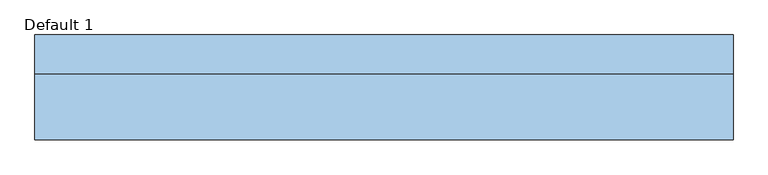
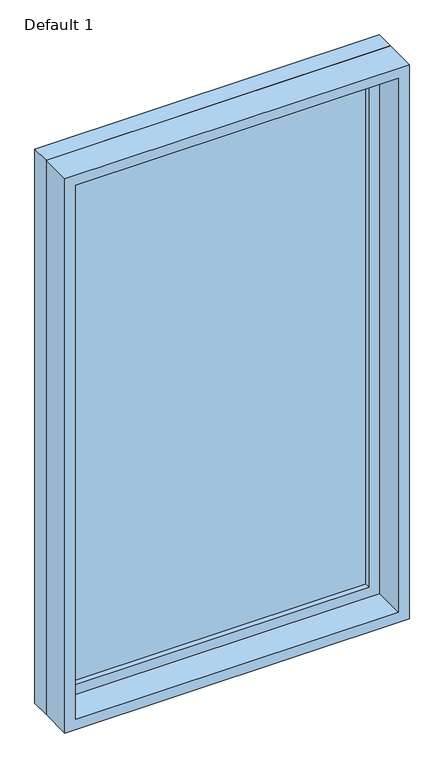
"""IFC4 building model written with IfcOpenShell, lengths in millimetres: window geometry, Planitar-Fixed : Default 1."""

from ifc_helpers import new_model, si_unit, frame, origin, place, context, project, spatial, polyline, outline, extrude, source, transform, mapped, element, save


def default_1_ade855ad(model_context):
    return source(origin(), model_context, "Body", "SweptSolid", [
        extrude(outline(polyline([(2622.6, -489.0), (933.4, -489.0), (933.4, 489.0), (2622.6, 489.0), (2622.6, -489.0)]), holes=[polyline([(2578.6, -445.0), (2578.6, 445.0), (977.4, 445.0), (977.4, -445.0), (2578.6, -445.0)])]), frame((0.0, 32.5, 0.0), z_axis=(0.0, 1.0, 0.0), x_axis=(0.0, 0.0, 1.0)), (0.0, 0.0, 1.0), 44.0),
        extrude(outline(polyline([(2641.6, -508.0), (914.4, -508.0), (914.4, 508.0), (2641.6, 508.0), (2641.6, -508.0)]), holes=[polyline([(2622.6, -489.0), (2622.6, 489.0), (933.4, 489.0), (933.4, -489.0), (2622.6, -489.0)])]), frame((0.0, 32.5, 0.0), z_axis=(0.0, 1.0, 0.0), x_axis=(0.0, 0.0, 1.0)), (0.0, 0.0, 1.0), 56.7),
        extrude(outline(polyline([(2641.6, -508.0), (914.4, -508.0), (914.4, 508.0), (2641.6, 508.0), (2641.6, -508.0)]), holes=[polyline([(2609.6, -476.0), (2609.6, 476.0), (946.4, 476.0), (946.4, -476.0), (2609.6, -476.0)])]), frame((0.0, -63.2, 0.0), z_axis=(0.0, 1.0, 0.0), x_axis=(0.0, 0.0, 1.0)), (0.0, 0.0, 1.0), 95.7),
        extrude(outline(polyline([(-445.0, 60.5), (445.0, 60.5), (445.0, 48.5), (-445.0, 48.5), (-445.0, 60.5)])), frame((0.0, 0.0, 977.4), z_axis=(0.0, 0.0, 1.0), x_axis=(1.0, 0.0, 0.0)), (0.0, 0.0, 1.0), 1601.2),
    ])


if __name__ == "__main__":
    model = new_model("IFC4")
    model_context = context("Model", 3, world=origin())
    ifc_project = project(units=[si_unit("LENGTHUNIT", "METRE", prefix="MILLI")], contexts=[model_context])
    site = spatial("IfcSite", under=ifc_project)
    building = spatial("IfcBuilding", under=site)
    placement = place(None, origin())
    default_1_shape = default_1_ade855ad(model_context)
    element("IfcWindow", 1, ObjectType="Planitar-Fixed : Default 1", at=placement, inside=building, context=model_context, shape_type="MappedRepresentation", body=[
        mapped(default_1_shape, transform((0.0, 0.0, 0.0), x_axis=(1.0, 0.0, 0.0), y_axis=(0.0, 1.0, 0.0), z_axis=(0.0, 0.0, 1.0))),
    ])
    save(model, "model.ifc")
